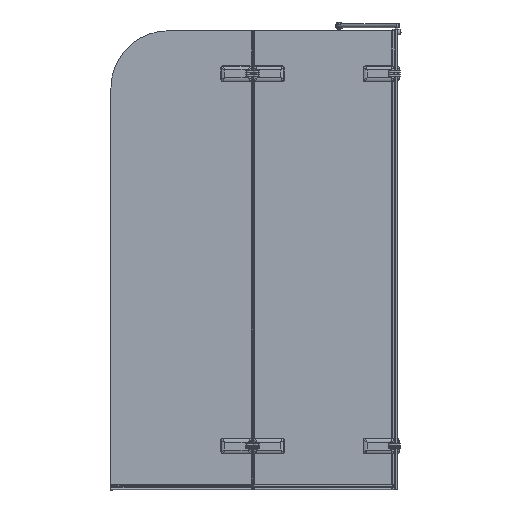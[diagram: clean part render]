
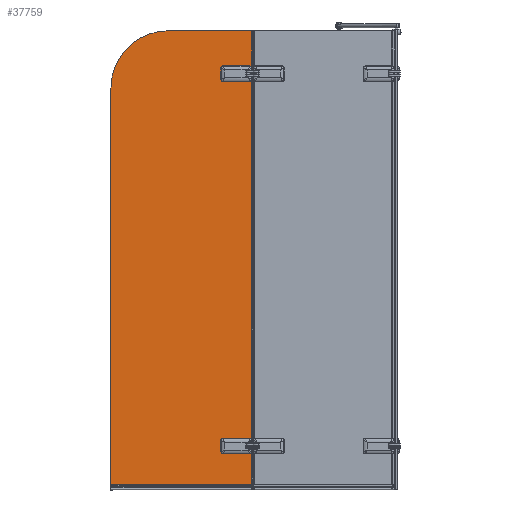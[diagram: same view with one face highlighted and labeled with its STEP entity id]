
A CAD part, front view. The second image highlights one B-rep face of the part: STEP entity #37759.
In plain terms, the highlighted planar face has unit normal (0, -1, 0).
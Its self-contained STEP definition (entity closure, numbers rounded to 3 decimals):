
#3707=FACE_OUTER_BOUND($,#5931,.T.);
#5931=EDGE_LOOP($,(#32424,#32425,#32426,#32427,#32428,#32429,#32430,#32431,
#32432,#32433,#32434,#32435,#32436,#32437,#32438,#32439,#32440,#32441,#32442,
#32443,#32444));
#6596=LINE($,#82211,#9713);
#8321=LINE($,#90106,#11438);
#8325=LINE($,#90118,#11442);
#8329=LINE($,#90129,#11446);
#8537=LINE($,#91211,#11654);
#8541=LINE($,#91223,#11658);
#8545=LINE($,#91234,#11662);
#8949=LINE($,#94529,#12066);
#9017=LINE($,#94824,#12134);
#9061=LINE($,#94956,#12178);
#9065=LINE($,#94968,#12182);
#9066=LINE($,#94971,#12183);
#9713=VECTOR($,#43422,1254.861);
#11438=VECTOR($,#48361,96.);
#11442=VECTOR($,#48373,42.);
#11446=VECTOR($,#48385,96.);
#11654=VECTOR($,#49013,96.);
#11658=VECTOR($,#49025,42.);
#11662=VECTOR($,#49037,96.);
#12066=VECTOR($,#50363,112.83);
#12134=VECTOR($,#50587,127.43);
#12178=VECTOR($,#50741,490.747);
#12182=VECTOR($,#50759,290.747);
#12183=VECTOR($,#50762,1385.4);
#13325=CIRCLE($,#40192,5.);
#13328=CIRCLE($,#40196,5.);
#13365=CIRCLE($,#40271,5.);
#13367=CIRCLE($,#40275,5.);
#13413=CIRCLE($,#40411,5.);
#13416=CIRCLE($,#40415,5.);
#13451=CIRCLE($,#40489,5.);
#13453=CIRCLE($,#40493,5.);
#13663=CIRCLE($,#41097,200.);
#14617=VERTEX_POINT($,#82201);
#14618=VERTEX_POINT($,#82210);
#16229=VERTEX_POINT($,#89778);
#16232=VERTEX_POINT($,#89785);
#16235=VERTEX_POINT($,#89798);
#16345=VERTEX_POINT($,#90105);
#16347=VERTEX_POINT($,#90111);
#16349=VERTEX_POINT($,#90117);
#16351=VERTEX_POINT($,#90123);
#16457=VERTEX_POINT($,#90889);
#16458=VERTEX_POINT($,#90898);
#16462=VERTEX_POINT($,#90908);
#16568=VERTEX_POINT($,#91210);
#16570=VERTEX_POINT($,#91216);
#16572=VERTEX_POINT($,#91222);
#16574=VERTEX_POINT($,#91228);
#16982=VERTEX_POINT($,#94528);
#17044=VERTEX_POINT($,#94822);
#17077=VERTEX_POINT($,#94955);
#17078=VERTEX_POINT($,#94967);
#17079=VERTEX_POINT($,#94969);
#18434=EDGE_CURVE($,#14618,#14617,#6596,.T.);
#20917=EDGE_CURVE($,#16229,#14618,#13325,.T.);
#20924=EDGE_CURVE($,#16232,#16235,#13328,.T.);
#21075=EDGE_CURVE($,#16235,#16345,#8321,.T.);
#21078=EDGE_CURVE($,#16345,#16347,#13365,.T.);
#21081=EDGE_CURVE($,#16347,#16349,#8325,.T.);
#21084=EDGE_CURVE($,#16349,#16351,#13367,.T.);
#21087=EDGE_CURVE($,#16351,#16229,#8329,.T.);
#21264=EDGE_CURVE($,#16458,#16457,#13413,.T.);
#21270=EDGE_CURVE($,#14617,#16462,#13416,.T.);
#21419=EDGE_CURVE($,#16462,#16568,#8537,.T.);
#21422=EDGE_CURVE($,#16568,#16570,#13451,.T.);
#21425=EDGE_CURVE($,#16570,#16572,#8541,.T.);
#21428=EDGE_CURVE($,#16572,#16574,#13453,.T.);
#21431=EDGE_CURVE($,#16574,#16458,#8545,.T.);
#22101=EDGE_CURVE($,#16982,#16232,#8949,.T.);
#22209=EDGE_CURVE($,#16457,#17044,#9017,.T.);
#22275=EDGE_CURVE($,#17077,#16982,#9061,.T.);
#22281=EDGE_CURVE($,#17078,#17044,#9065,.T.);
#22282=EDGE_CURVE($,#17079,#17078,#13663,.T.);
#22283=EDGE_CURVE($,#17077,#17079,#9066,.T.);
#32424=ORIENTED_EDGE($,*,*,#20917,.T.);
#32425=ORIENTED_EDGE($,*,*,#18434,.T.);
#32426=ORIENTED_EDGE($,*,*,#21270,.T.);
#32427=ORIENTED_EDGE($,*,*,#21419,.T.);
#32428=ORIENTED_EDGE($,*,*,#21422,.T.);
#32429=ORIENTED_EDGE($,*,*,#21425,.T.);
#32430=ORIENTED_EDGE($,*,*,#21428,.T.);
#32431=ORIENTED_EDGE($,*,*,#21431,.T.);
#32432=ORIENTED_EDGE($,*,*,#21264,.T.);
#32433=ORIENTED_EDGE($,*,*,#22209,.T.);
#32434=ORIENTED_EDGE($,*,*,#22281,.F.);
#32435=ORIENTED_EDGE($,*,*,#22282,.F.);
#32436=ORIENTED_EDGE($,*,*,#22283,.F.);
#32437=ORIENTED_EDGE($,*,*,#22275,.T.);
#32438=ORIENTED_EDGE($,*,*,#22101,.T.);
#32439=ORIENTED_EDGE($,*,*,#20924,.T.);
#32440=ORIENTED_EDGE($,*,*,#21075,.T.);
#32441=ORIENTED_EDGE($,*,*,#21078,.T.);
#32442=ORIENTED_EDGE($,*,*,#21081,.T.);
#32443=ORIENTED_EDGE($,*,*,#21084,.T.);
#32444=ORIENTED_EDGE($,*,*,#21087,.T.);
#33999=PLANE($,#41096);
#37759=ADVANCED_FACE($,(#3707),#33999,.T.);
#40192=AXIS2_PLACEMENT_3D($,#89779,#48092,#48093);
#40196=AXIS2_PLACEMENT_3D($,#89800,#48103,#48104);
#40271=AXIS2_PLACEMENT_3D($,#90112,#48366,#48367);
#40275=AXIS2_PLACEMENT_3D($,#90124,#48378,#48379);
#40411=AXIS2_PLACEMENT_3D($,#90899,#48746,#48747);
#40415=AXIS2_PLACEMENT_3D($,#90910,#48757,#48758);
#40489=AXIS2_PLACEMENT_3D($,#91217,#49018,#49019);
#40493=AXIS2_PLACEMENT_3D($,#91229,#49030,#49031);
#41096=AXIS2_PLACEMENT_3D($,#94966,#50757,#50758);
#41097=AXIS2_PLACEMENT_3D($,#94970,#50760,#50761);
#43422=DIRECTION($,(0.,0.,1.));
#48092=DIRECTION('center_axis',(0.,1.,0.));
#48093=DIRECTION('ref_axis',(-1.,0.,0.));
#48103=DIRECTION('center_axis',(0.,1.,0.));
#48104=DIRECTION('ref_axis',(0.,0.,
1.));
#48361=DIRECTION($,(-1.,0.,0.));
#48366=DIRECTION('center_axis',(0.,1.,0.));
#48367=DIRECTION('ref_axis',(1.,0.,0.));
#48373=DIRECTION($,(0.,0.,1.));
#48378=DIRECTION('center_axis',(0.,1.,0.));
#48379=DIRECTION('ref_axis',(0.,0.,
-1.));
#48385=DIRECTION($,(1.,0.,0.));
#48746=DIRECTION('center_axis',(0.,1.,0.));
#48747=DIRECTION('ref_axis',(-1.,0.,0.));
#48757=DIRECTION('center_axis',(0.,1.,0.));
#48758=DIRECTION('ref_axis',(0.,0.,
1.));
#49013=DIRECTION($,(-1.,0.,0.));
#49018=DIRECTION('center_axis',(0.,1.,0.));
#49019=DIRECTION('ref_axis',(1.,0.,0.));
#49025=DIRECTION($,(0.,0.,1.));
#49030=DIRECTION('center_axis',(0.,1.,0.));
#49031=DIRECTION('ref_axis',(0.,0.,
-1.));
#49037=DIRECTION($,(1.,0.,0.));
#50363=DIRECTION($,(0.,0.,1.));
#50587=DIRECTION($,(0.,0.,1.));
#50741=DIRECTION($,(1.,0.,0.));
#50757=DIRECTION('center_axis',(0.,-1.,0.));
#50758=DIRECTION('ref_axis',(1.,0.,0.));
#50759=DIRECTION($,(1.,0.,0.));
#50760=DIRECTION('center_axis',(0.,1.,0.));
#50761=DIRECTION('ref_axis',(-0.707,0.,
0.707));
#50762=DIRECTION($,(0.,0.,1.));
#82201=CARTESIAN_POINT('',(1108.517,-33.722,1453.375));
#82210=CARTESIAN_POINT('',(1108.517,-33.722,198.514));
#82211=CARTESIAN_POINT($,(1108.517,-33.722,185.944));
#89778=CARTESIAN_POINT('',(1103.77,-33.722,201.944));
#89779=CARTESIAN_POINT('Origin',(1103.77,-33.722,196.944));
#89785=CARTESIAN_POINT('',(1108.517,-33.722,153.375));
#89798=CARTESIAN_POINT('',(1103.77,-33.722,149.944));
#89800=CARTESIAN_POINT('Origin',(1103.77,-33.722,154.944));
#90105=CARTESIAN_POINT('',(1007.77,-33.722,149.944));
#90106=CARTESIAN_POINT($,(812.77,-33.722,149.944));
#90111=CARTESIAN_POINT('',(1002.77,-33.722,154.944));
#90112=CARTESIAN_POINT('Origin',(1007.77,-33.722,154.944));
#90117=CARTESIAN_POINT('',(1002.77,-33.722,196.944));
#90118=CARTESIAN_POINT($,(1002.77,-33.722,116.444));
#90123=CARTESIAN_POINT('',(1007.77,-33.722,201.944));
#90124=CARTESIAN_POINT('Origin',(1007.77,-33.722,196.944));
#90129=CARTESIAN_POINT($,(860.77,-33.722,201.944));
#90889=CARTESIAN_POINT('',(1108.517,-33.722,1498.514));
#90898=CARTESIAN_POINT('',(1103.77,-33.722,1501.944));
#90899=CARTESIAN_POINT('Origin',(1103.77,-33.722,1496.944));
#90908=CARTESIAN_POINT('',(1103.77,-33.722,1449.944));
#90910=CARTESIAN_POINT('Origin',(1103.77,-33.722,1454.944));
#91210=CARTESIAN_POINT('',(1007.77,-33.722,1449.944));
#91211=CARTESIAN_POINT($,(812.77,-33.722,1449.944));
#91216=CARTESIAN_POINT('',(1002.77,-33.722,1454.944));
#91217=CARTESIAN_POINT('Origin',(1007.77,-33.722,1454.944));
#91222=CARTESIAN_POINT('',(1002.77,-33.722,1496.944));
#91223=CARTESIAN_POINT($,(1002.77,-33.722,766.444));
#91228=CARTESIAN_POINT('',(1007.77,-33.722,1501.944));
#91229=CARTESIAN_POINT('Origin',(1007.77,-33.722,1496.944));
#91234=CARTESIAN_POINT($,(860.77,-33.722,1501.944));
#94528=CARTESIAN_POINT('',(1108.517,-33.722,40.544));
#94529=CARTESIAN_POINT($,(1108.517,-33.722,165.944));
#94822=CARTESIAN_POINT('',(1108.517,-33.722,1625.944));
#94824=CARTESIAN_POINT($,(1108.517,-33.722,1485.944));
#94955=CARTESIAN_POINT('',(617.77,-33.722,40.544));
#94956=CARTESIAN_POINT($,(617.77,-33.722,40.544));
#94966=CARTESIAN_POINT('Origin',(617.77,-33.722,35.944));
#94967=CARTESIAN_POINT('',(817.77,-33.722,1625.944));
#94968=CARTESIAN_POINT($,(617.77,-33.722,1625.944));
#94969=CARTESIAN_POINT('',(617.77,-33.722,1425.944));
#94970=CARTESIAN_POINT('Origin',(817.77,-33.722,1425.944));
#94971=CARTESIAN_POINT($,(617.77,-33.722,35.944));
